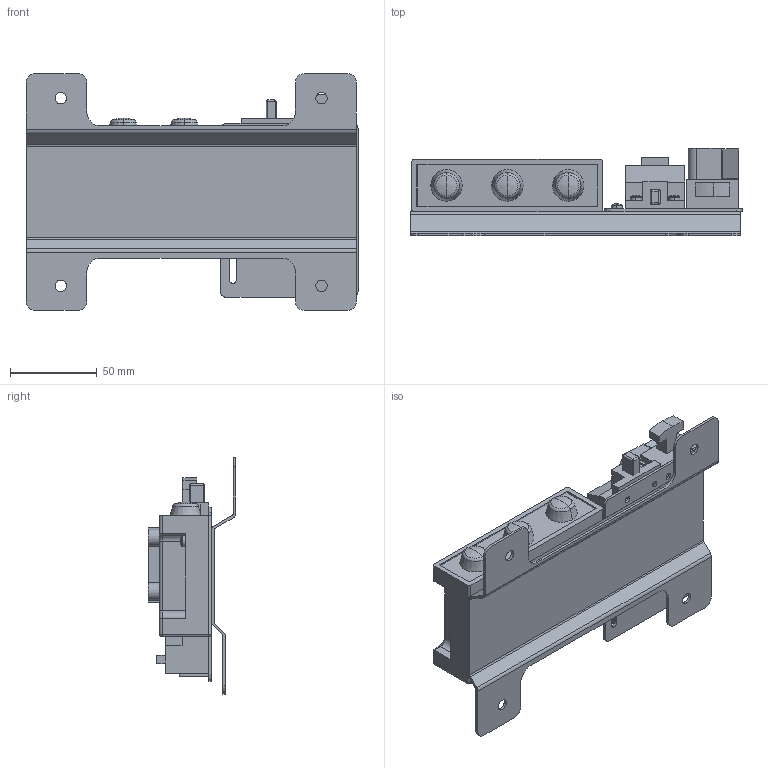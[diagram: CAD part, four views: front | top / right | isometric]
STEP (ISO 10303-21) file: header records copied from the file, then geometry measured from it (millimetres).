
FILE_DESCRIPTION (( 'STEP AP214' ), '1' );
FILE_NAME ('050ASLFI01.STEP', '2021-02-17T10:25:12', ( '' ), ( '' ), 'SwSTEP 2.0', 'SolidWorks 2013', '' );
FILE_SCHEMA (( 'AUTOMOTIVE_DESIGN' ));
Length unit declared in the file: millimetre
Products named in the file (1): 050ASLFI01
Bounding box: 191 x 50.5 x 136 mm (x, y, z)
Volume: 403343.9 mm3; surface area: 129391 mm2
Topology: 18 solids, 18 shells, 549 faces, 1443 edges, 932 vertices
Faces by surface type: plane 273, cylinder 116, cone 92, sphere 32, torus 32, bspline 4
Entity records: 23627 total; most frequent: CARTESIAN_POINT 3555, DIRECTION 2997, ORIENTED_EDGE 2870, EDGE_CURVE 1435, AXIS2_PLACEMENT_3D 1158, VERTEX_POINT 932, VECTOR 681, LINE 681
